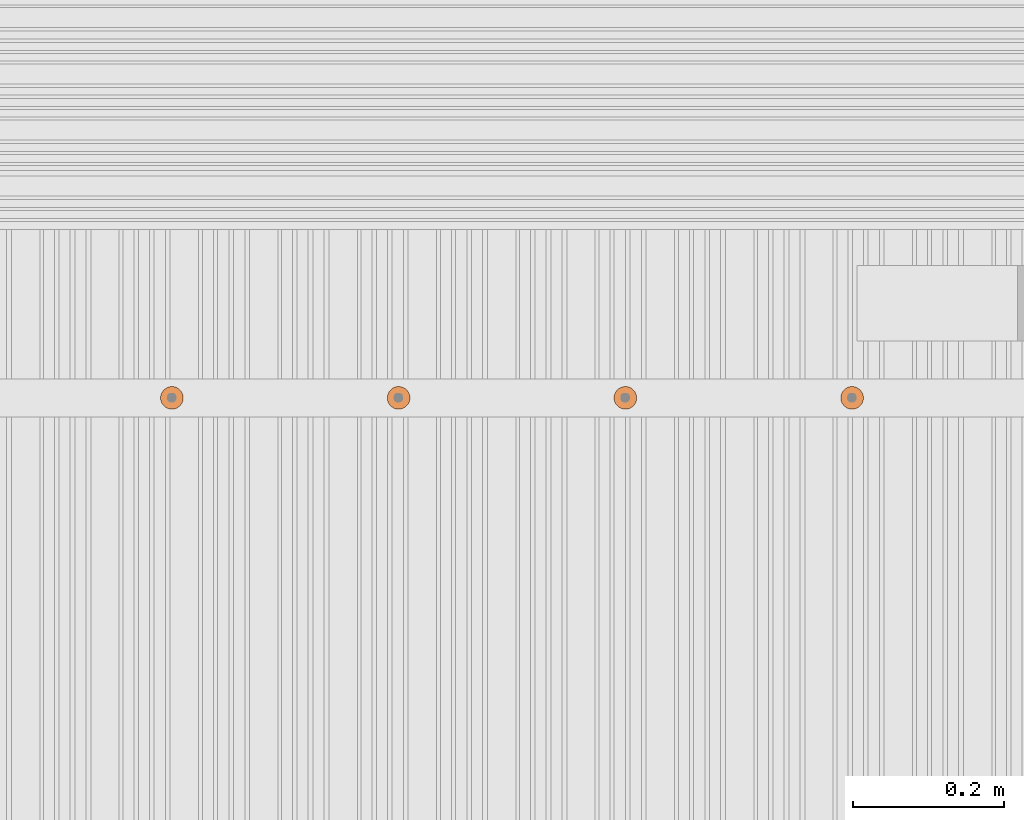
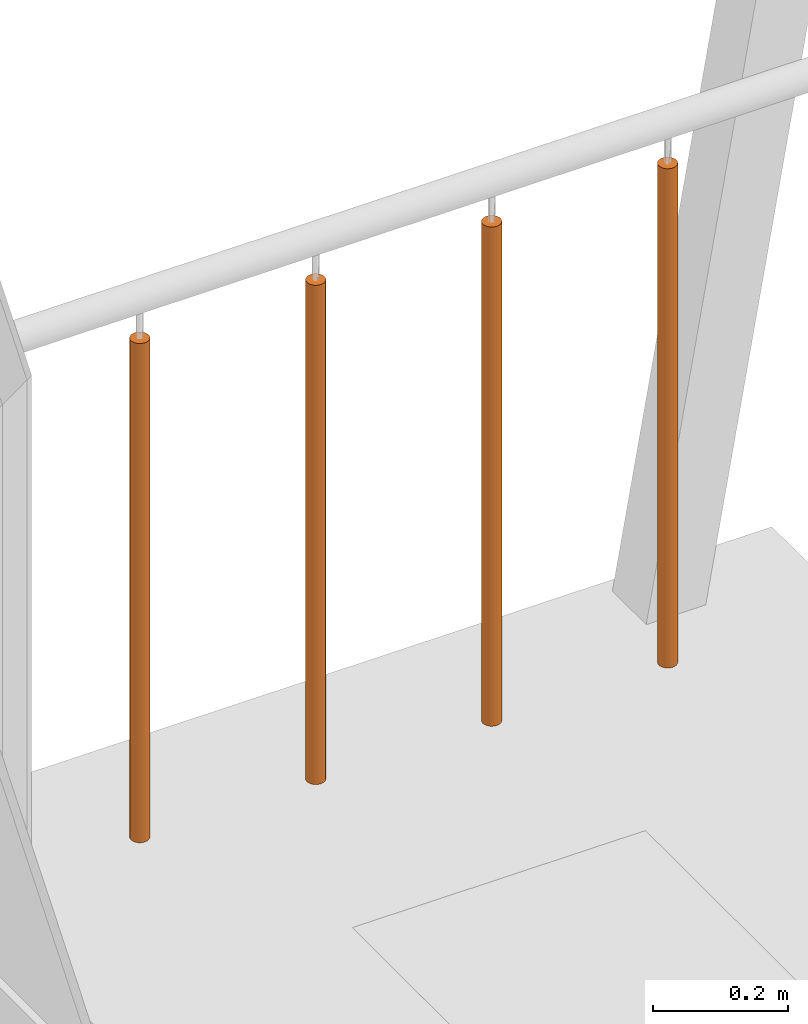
# One storey, part 365 of 418: 4 proxies, 1 element without a shape of its own.
"""IFC2X3 building model written with IfcOpenShell, lengths in millimetres."""

import ifcopenshell
import ifcopenshell.guid

model = None  # the IFC model being written
_history = None  # IfcOwnerHistory: only IFC2X3 demands one
_inside = {}  # id of a spatial element -> (the spatial element, [elements in it])
_under = {}  # id of a project, library or spatial element -> (it, [spatial elements below it])
_declared = {}  # id of a project -> (the project, [libraries it declares])
_typed = {}  # id of a type object -> (the type object, [elements of that type])
_made_of = {}  # id of a material, layer set ... -> (it, [elements and type objects made of it])


def new_model(schema):
    """Start an empty IFC model of exactly this schema.

    Asked for "IFC4X3", IfcOpenShell would pick the latest addendum, in which some entities
    have other attributes; the version numbers below select the first issue.
    IFC2X3 requires an IfcOwnerHistory on every rooted entity: one is made here for all.
    """
    global model, _history
    if schema == "IFC4X3":
        model = ifcopenshell.file(schema_version=(4, 3, 0, 0))
    else:
        model = ifcopenshell.file(schema=schema)
    _inside.clear()
    _under.clear()
    _declared.clear()
    _typed.clear()
    _made_of.clear()
    _history = None
    if model.schema == "IFC2X3":
        org = make("IfcOrganization", Name="unknown")
        user = make(
            "IfcPersonAndOrganization",
            ThePerson=make("IfcPerson", FamilyName="unknown"),
            TheOrganization=org,
        )
        app = make(
            "IfcApplication",
            ApplicationDeveloper=org,
            Version="unknown",
            ApplicationFullName="unknown",
            ApplicationIdentifier="unknown",
        )
        _history = make(
            "IfcOwnerHistory",
            OwningUser=user,
            OwningApplication=app,
            ChangeAction="ADDED",
            CreationDate=0,
        )
    return model


def make(cls, **values):
    """One entity of the class cls with the attributes given. An attribute that is None is left unset."""
    return model.create_entity(
        cls, **{name: value for name, value in values.items() if value is not None}
    )


def entity(cls, *values):
    """Any entity or typed value of the class cls, its attributes in the order of the schema. None: left unset."""
    e = model.create_entity(cls)
    for i, value in enumerate(values):
        if value is not None:
            e[i] = value
    return e


def rooted(cls, **values):
    """An entity with a GlobalId (a new one), such as an element, a storey or a relation."""
    return make(cls, GlobalId=ifcopenshell.guid.new(), OwnerHistory=_history, **values)


def si_unit(unit_type, name, prefix=None):
    """IfcSIUnit, for example si_unit("LENGTHUNIT", "METRE", prefix="MILLI")."""
    return make("IfcSIUnit", UnitType=unit_type, Prefix=prefix, Name=name)


def converted_unit(unit_type, name, factor, base, dimensions=None, offset=None):
    """IfcConversionBasedUnit, such as the inch: factor (a typed value) times the base unit."""
    return make(
        "IfcConversionBasedUnit"
        if offset is None
        else "IfcConversionBasedUnitWithOffset",
        ConversionOffset=offset,
        Dimensions=None
        if dimensions is None
        else entity("IfcDimensionalExponents", *dimensions),
        UnitType=unit_type,
        Name=name,
        ConversionFactor=make(
            "IfcMeasureWithUnit", ValueComponent=factor, UnitComponent=base
        ),
    )


def derived_unit(unit_type, elements):
    """IfcDerivedUnit: a product of units, each with its exponent."""
    return make(
        "IfcDerivedUnit",
        Elements=[
            make("IfcDerivedUnitElement", Unit=unit, Exponent=power)
            for unit, power in elements
        ],
        UnitType=unit_type,
    )


def money_unit(currency):
    """IfcMonetaryUnit."""
    return make("IfcMonetaryUnit", Currency=currency)


def assignment(units):
    """IfcUnitAssignment: the units of a project."""
    return None if units is None else make("IfcUnitAssignment", Units=units)


def point(xyz):
    """IfcCartesianPoint."""
    return None if xyz is None else make("IfcCartesianPoint", Coordinates=xyz)


def direction(xyz):
    """IfcDirection."""
    return None if xyz is None else make("IfcDirection", DirectionRatios=xyz)


def frame(location, z_axis=None, x_axis=None):
    """IfcAxis2Placement3D, a coordinate frame: its origin and axes. An axis left out is left unset."""
    return make(
        "IfcAxis2Placement3D",
        Location=point(location),
        Axis=direction(z_axis),
        RefDirection=direction(x_axis),
    )


def origin_with_axes():
    """The frame at (0, 0, 0) with the z axis (0, 0, 1) and the x axis (1, 0, 0) written out."""
    return frame((0.0, 0.0, 0.0), z_axis=(0.0, 0.0, 1.0), x_axis=(1.0, 0.0, 0.0))


def place(relative_to, where):
    """IfcLocalPlacement: puts the frame where relative to a parent placement (None: the world)."""
    return make(
        "IfcLocalPlacement", PlacementRelTo=relative_to, RelativePlacement=where
    )


def context(
    kind, dimensions, precision=None, world=None, true_north=None, identifier=None
):
    """IfcGeometricRepresentationContext, for example the 3D "Model" context."""
    return make(
        "IfcGeometricRepresentationContext",
        ContextIdentifier=identifier,
        ContextType=kind,
        CoordinateSpaceDimension=dimensions,
        Precision=precision,
        WorldCoordinateSystem=world,
        TrueNorth=true_north,
    )


def subcontext(parent, identifier, kind, view, scale=None):
    """IfcGeometricRepresentationSubContext, for example "Body" below "Model"."""
    return make(
        "IfcGeometricRepresentationSubContext",
        ContextIdentifier=identifier,
        ContextType=kind,
        ParentContext=parent,
        TargetScale=scale,
        TargetView=view,
    )


def project(units=None, contexts=None):
    """IfcProject with its units and contexts."""
    return rooted(
        "IfcProject",
        Name="project",
        RepresentationContexts=contexts,
        UnitsInContext=assignment(units),
    )


def spatial(cls, under=None, at=None, **own):
    """A site, building, storey or space (cls), placed at a placement, below another one or the project."""
    s = rooted(cls, ObjectPlacement=at, **own)
    if under is not None:
        _under.setdefault(under.id(), (under, []))[1].append(s)
    return s


def faces_of(points, faces, orient=None, outer=None):
    """IfcFace entities. A face is a list of loops; a loop is a list of indices into points, from 0.

    orient and outer hold one flag for each loop. By default every Orientation is true, the
    first loop of a face is its IfcFaceOuterBound and the others are IfcFaceBound.
    """
    made = []
    for i, loops in enumerate(faces):
        bounds = []
        for j, loop in enumerate(loops):
            is_outer = j == 0 if outer is None else outer[i][j]
            bounds.append(
                make(
                    "IfcFaceOuterBound" if is_outer else "IfcFaceBound",
                    Bound=make("IfcPolyLoop", Polygon=[points[k] for k in loop]),
                    Orientation=True if orient is None else orient[i][j],
                )
            )
        made.append(make("IfcFace", Bounds=bounds))
    return made


def faceted_brep(points, faces, orient=None, outer=None, voids=None):
    """IfcFacetedBrep: a solid bounded by flat faces; with voids (closed shells), ...WithVoids."""
    shared = [point(p) for p in points]
    hull = make("IfcClosedShell", CfsFaces=faces_of(shared, faces, orient, outer))
    if voids is None:
        return make("IfcFacetedBrep", Outer=hull)
    return make(
        "IfcFacetedBrepWithVoids",
        Outer=hull,
        Voids=[
            make(cls, CfsFaces=faces_of(shared, fs, o, b)) for cls, fs, o, b in voids
        ],
    )


def shape(context_of_items, identifier, shape_type, items):
    """IfcShapeRepresentation: the items that make up one representation, for example the "Body"."""
    return make(
        "IfcShapeRepresentation",
        ContextOfItems=context_of_items,
        RepresentationIdentifier=identifier,
        RepresentationType=shape_type,
        Items=items,
    )


def source(mapping_origin, context_of_items, identifier, shape_type, items):
    """IfcRepresentationMap: a shape defined once, which mapped items show again and again."""
    return make(
        "IfcRepresentationMap",
        MappingOrigin=mapping_origin,
        MappedRepresentation=shape(context_of_items, identifier, shape_type, items),
    )


def transform(
    local_origin,
    x_axis=None,
    y_axis=None,
    z_axis=None,
    scale=None,
    scale2=None,
    scale3=None,
    uniform=True,
):
    """IfcCartesianTransformationOperator3D, or its non-uniform kind. x_axis, y_axis, z_axis: its Axis1, 2, 3."""
    if uniform:
        return make(
            "IfcCartesianTransformationOperator3D",
            Axis1=direction(x_axis),
            Axis2=direction(y_axis),
            LocalOrigin=point(local_origin),
            Scale=scale,
            Axis3=direction(z_axis),
        )
    return make(
        "IfcCartesianTransformationOperator3DnonUniform",
        Axis1=direction(x_axis),
        Axis2=direction(y_axis),
        LocalOrigin=point(local_origin),
        Scale=scale,
        Axis3=direction(z_axis),
        Scale2=scale2,
        Scale3=scale3,
    )


def mapped(mapping_source, mapping_target):
    """IfcMappedItem: shows the shape of a source again, moved by a transform."""
    return make(
        "IfcMappedItem", MappingSource=mapping_source, MappingTarget=mapping_target
    )


def material(Name=None, Category=None):
    """IfcMaterial."""
    return make("IfcMaterial", Name=Name, Category=Category)


def made_of(thing, what):
    """Note that an element or type object is made of a material, layer set ...; save() writes the relation."""
    if what is not None:
        _made_of.setdefault(what.id(), (what, []))[1].append(thing)
    return thing


def type_object(cls, material=None, **own):
    """A type object (cls), such as IfcWallType, which elements share."""
    return made_of(rooted(cls, **own), material)


def element(
    cls,
    number,
    at=None,
    inside=None,
    cuts=None,
    type_object=None,
    material=None,
    context=None,
    identifier="Body",
    shape_type=None,
    held_by="IfcProductDefinitionShape",
    body=None,
    shapes=None,
    **own,
):
    """One element of the class cls, such as IfcWall. Its Tag is "e" and its number.

    at: its placement. inside: the storey or other place that contains it. cuts: it is an
    opening in that element (IfcRelVoidsElement). A single representation is given by context,
    identifier, shape_type and body (its items); several are given by shapes. held_by: the class
    of the entity that holds the representations. save() writes the other relations.
    """
    e = rooted(cls, Tag="e%d" % number, ObjectPlacement=at, **own)
    if body is not None:
        shapes = [shape(context, identifier, shape_type, body)]
    if shapes is not None:
        e.Representation = make(held_by, Representations=shapes)
    if inside is not None:
        _inside.setdefault(inside.id(), (inside, []))[1].append(e)
    if cuts is not None:
        rooted(
            "IfcRelVoidsElement", RelatingBuildingElement=cuts, RelatedOpeningElement=e
        )
    if type_object is not None:
        _typed.setdefault(type_object.id(), (type_object, []))[1].append(e)
    return made_of(e, material)


def aggregate(whole, parts):
    """IfcRelAggregates: a whole, such as a stair, and the parts it consists of."""
    return rooted("IfcRelAggregates", RelatingObject=whole, RelatedObjects=parts)


def save(model, path):
    """Write the relations noted so far, then the file.

    IfcRelAggregates (storeys below a building ...), IfcRelContainedInSpatialStructure (elements
    in a storey), IfcRelDefinesByType, IfcRelAssociatesMaterial and IfcRelDeclares: one each for
    every whole, place, type object, material and project.
    """
    for whole, parts in _under.values():
        aggregate(whole, parts)
    for where, things in _inside.values():
        rooted(
            "IfcRelContainedInSpatialStructure",
            RelatedElements=things,
            RelatingStructure=where,
        )
    for kind, things in _typed.values():
        rooted("IfcRelDefinesByType", RelatedObjects=things, RelatingType=kind)
    for what, things in _made_of.values():
        rooted("IfcRelAssociatesMaterial", RelatedObjects=things, RelatingMaterial=what)
    for by, libraries in _declared.values():
        rooted("IfcRelDeclares", RelatingContext=by, RelatedDefinitions=libraries)
    model.write(path)


model = new_model("IFC2X3")

# Units and contexts
model_context = context("Model", 3, precision=0.01, world=origin_with_axes(), true_north=direction((0.0, 1.0)))
body_context = subcontext(model_context, "Body", "Model", "MODEL_VIEW")
ifc_project = project(units=[si_unit("LENGTHUNIT", "METRE", prefix="MILLI"), si_unit("AREAUNIT", "SQUARE_METRE"), si_unit("VOLUMEUNIT", "CUBIC_METRE"), converted_unit("PLANEANGLEUNIT", "DEGREE", entity("IfcPlaneAngleMeasure", 0.0174532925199), si_unit("PLANEANGLEUNIT", "RADIAN"), dimensions=[0, 0, 0, 0, 0, 0, 0]), si_unit("SOLIDANGLEUNIT", "STERADIAN"), money_unit("EUR"), converted_unit("TIMEUNIT", "Year", entity("IfcTimeMeasure", 31556926.0), si_unit("TIMEUNIT", "SECOND"), dimensions=[0, 0, 1, 0, 0, 0, 0]), si_unit("MASSUNIT", "GRAM", prefix="KILO"), si_unit("THERMODYNAMICTEMPERATUREUNIT", "DEGREE_CELSIUS"), si_unit("LUMINOUSINTENSITYUNIT", "LUMEN"), si_unit("ENERGYUNIT", "JOULE", prefix="MEGA"), derived_unit("THERMALCONDUCTANCEUNIT", [(si_unit("POWERUNIT", "WATT"), 1), (si_unit("LENGTHUNIT", "METRE"), -1), (si_unit("THERMODYNAMICTEMPERATUREUNIT", "KELVIN"), -1)]), derived_unit("SPECIFICHEATCAPACITYUNIT", [(si_unit("ENERGYUNIT", "JOULE"), 1), (si_unit("MASSUNIT", "GRAM", prefix="KILO"), -1), (si_unit("THERMODYNAMICTEMPERATUREUNIT", "KELVIN"), -1)]), derived_unit("MASSDENSITYUNIT", [(si_unit("MASSUNIT", "GRAM", prefix="KILO"), 1), (si_unit("VOLUMEUNIT", "CUBIC_METRE"), -1)])], contexts=[model_context])

# Site, building, storey
site_placement = place(None, origin_with_axes())
site = spatial("IfcSite", under=ifc_project, at=site_placement, Name="Paldiski mnt 245/1, Tallinn, Harjumaa", CompositionType="COMPLEX")
building_placement = place(site_placement, origin_with_axes())
building = spatial("IfcBuilding", under=site, at=building_placement, Name="RKAS Hoone üldnimetus (kasutust iseloomustav) -> IFC Project Manager -> SOLIBRI", CompositionType="ELEMENT")
storey_placement = place(building_placement, origin_with_axes())
storey = spatial("IfcBuildingStorey", under=building, at=storey_placement, Name="Esimene korrus", CompositionType="ELEMENT", Elevation=0.0)

# Proxies
building_element_proxy_type_1 = type_object("IfcBuildingElementProxyType", Name="Railing Type", PredefinedType="NOTDEFINED")
proxy_1_placement = place(storey_placement, frame((-46765.0, 8168.75490532, -321.218687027), z_axis=(0.0, 0.0, 1.0), x_axis=(1.0, 0.0, 0.0)))
proxy_1 = element("IfcBuildingElementProxy", 1, at=proxy_1_placement, inside=storey, type_object=building_element_proxy_type_1, Name="Trepipiire")
ifc_material = material(Name="RAL7016")
building_element_proxy_type_2 = type_object("IfcBuildingElementProxyType", Name="IfcBuildingElementProxy", PredefinedType="NOTDEFINED")
shared_shape_1 = source(origin_with_axes(), body_context, "Body", "Brep", [
    faceted_brep([(0.0, -15.0, 0.0), (2.604722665, -14.7721162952, 0.0), (2.604722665, -14.7721162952, 900.0), (0.0, -15.0, 900.0), (-2.604722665, -14.7721162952, 0.0), (-5.13030214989, -14.0953893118, 0.0), (-7.5, -12.9903810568, 0.0), (-9.6418141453, -11.4906666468, 0.0), (-11.4906666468, -9.6418141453, 0.0), (-12.9903810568, -7.5, 0.0), (-14.0953893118, -5.13030214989, 0.0), (-14.7721162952, -2.604722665, 0.0), (-15.0, 0.0, 0.0), (-14.7721162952, 2.604722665, 0.0), (-14.0953893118, 5.13030214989, 0.0), (-12.9903810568, 7.5, 0.0), (-11.4906666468, 9.6418141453, 0.0), (-9.6418141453, 11.4906666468, 0.0), (-7.5, 12.9903810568, 0.0), (-5.13030214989, 14.0953893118, 0.0), (-2.604722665, 14.7721162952, 0.0), (0.0, 15.0, 0.0), (2.604722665, 14.7721162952, 0.0), (5.13030214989, 14.0953893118, 0.0), (7.5, 12.9903810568, 0.0), (9.6418141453, 11.4906666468, 0.0), (11.4906666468, 9.6418141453, 0.0), (12.9903810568, 7.5, 0.0), (14.0953893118, 5.13030214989, 0.0), (14.7721162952, 2.604722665, 0.0), (15.0, 0.0, 0.0), (14.7721162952, -2.604722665, 0.0), (14.0953893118, -5.13030214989, 0.0), (12.9903810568, -7.5, 0.0), (11.4906666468, -9.6418141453, 0.0), (9.6418141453, -11.4906666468, 0.0), (7.5, -12.9903810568, 0.0), (5.13030214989, -14.0953893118, 0.0), (5.13030214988, -14.0953893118, 900.0), (7.49999999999, -12.9903810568, 900.0), (9.64181414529, -11.4906666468, 900.0), (11.4906666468, -9.6418141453, 900.0), (12.9903810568, -7.5, 900.0), (14.0953893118, -5.13030214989, 900.0), (14.7721162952, -2.60472266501, 900.0), (15.0, 0.0, 900.0), (14.7721162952, 2.604722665, 900.0), (14.0953893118, 5.13030214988, 900.0), (12.9903810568, 7.5, 900.0), (11.4906666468, 9.64181414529, 900.0), (9.64181414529, 11.4906666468, 900.0), (7.49999999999, 12.9903810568, 900.0), (5.13030214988, 14.0953893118, 900.0), (2.604722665, 14.7721162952, 900.0), (0.0, 15.0, 900.0), (-2.60472266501, 14.7721162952, 900.0), (-5.13030214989, 14.0953893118, 900.0), (-7.50000000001, 12.9903810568, 900.0), (-9.64181414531, 11.4906666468, 900.0), (-11.4906666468, 9.64181414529, 900.0), (-12.9903810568, 7.5, 900.0), (-14.0953893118, 5.13030214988, 900.0), (-14.7721162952, 2.604722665, 900.0), (-15.0, 0.0, 900.0), (-14.7721162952, -2.60472266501, 900.0), (-14.0953893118, -5.13030214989, 900.0), (-12.9903810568, -7.5, 900.0), (-11.4906666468, -9.6418141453, 900.0), (-9.64181414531, -11.4906666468, 900.0), (-7.50000000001, -12.9903810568, 900.0), (-5.13030214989, -14.0953893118, 900.0), (-2.60472266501, -14.7721162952, 900.0)], [[[0, 1, 2, 3]], [[0, 4, 5, 6, 7, 8, 9, 10, 11, 12, 13, 14, 15, 16, 17, 18, 19, 20, 21, 22, 23, 24, 25, 26, 27, 28, 29, 30, 31, 32, 33, 34, 35, 36, 37, 1]], [[1, 37, 38, 2]], [[3, 2, 38, 39, 40, 41, 42, 43, 44, 45, 46, 47, 48, 49, 50, 51, 52, 53, 54, 55, 56, 57, 58, 59, 60, 61, 62, 63, 64, 65, 66, 67, 68, 69, 70, 71]], [[4, 0, 3, 71]], [[5, 4, 71, 70]], [[6, 5, 70, 69]], [[7, 6, 69, 68]], [[8, 7, 68, 67]], [[9, 8, 67, 66]], [[10, 9, 66, 65]], [[11, 10, 65, 64]], [[12, 11, 64, 63]], [[13, 12, 63, 62]], [[14, 13, 62, 61]], [[15, 14, 61, 60]], [[16, 15, 60, 59]], [[17, 16, 59, 58]], [[18, 17, 58, 57]], [[19, 18, 57, 56]], [[20, 19, 56, 55]], [[21, 20, 55, 54]], [[22, 21, 54, 53]], [[23, 22, 53, 52]], [[24, 23, 52, 51]], [[25, 24, 51, 50]], [[26, 25, 50, 49]], [[27, 26, 49, 48]], [[28, 27, 48, 47]], [[29, 28, 47, 46]], [[30, 29, 46, 45]], [[31, 30, 45, 44]], [[32, 31, 44, 43]], [[33, 32, 43, 42]], [[34, 33, 42, 41]], [[35, 34, 41, 40]], [[36, 35, 40, 39]], [[37, 36, 39, 38]]]),
])
proxy_2_placement = place(proxy_1_placement, frame((300.0, 0.0, 301.218687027), z_axis=(0.0, 0.0, 1.0), x_axis=(1.0, 0.0, 0.0)))
proxy_2 = element("IfcBuildingElementProxy", 2, at=proxy_2_placement, type_object=building_element_proxy_type_2, material=ifc_material, Name="SISEPOST - 001", context=body_context, shape_type="MappedRepresentation", body=[
    mapped(shared_shape_1, transform((0.0, 0.0, 0.0), x_axis=(0.0, -1.0, 0.0), y_axis=(1.0, 0.0, 0.0), z_axis=(0.0, 0.0, 1.0))),
])
shared_shape_2 = source(origin_with_axes(), body_context, "Body", "Brep", [
    faceted_brep([(0.0, -15.0, 0.0), (2.604722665, -14.7721162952, 0.0), (2.604722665, -14.7721162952, 900.0), (0.0, -15.0, 900.0), (-2.604722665, -14.7721162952, 0.0), (-5.13030214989, -14.0953893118, 0.0), (-7.5, -12.9903810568, 0.0), (-9.6418141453, -11.4906666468, 0.0), (-11.4906666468, -9.6418141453, 0.0), (-12.9903810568, -7.5, 0.0), (-14.0953893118, -5.13030214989, 0.0), (-14.7721162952, -2.604722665, 0.0), (-15.0, 0.0, 0.0), (-14.7721162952, 2.604722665, 0.0), (-14.0953893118, 5.13030214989, 0.0), (-12.9903810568, 7.5, 0.0), (-11.4906666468, 9.6418141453, 0.0), (-9.6418141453, 11.4906666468, 0.0), (-7.5, 12.9903810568, 0.0), (-5.13030214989, 14.0953893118, 0.0), (-2.604722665, 14.7721162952, 0.0), (0.0, 15.0, 0.0), (2.604722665, 14.7721162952, 0.0), (5.13030214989, 14.0953893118, 0.0), (7.5, 12.9903810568, 0.0), (9.6418141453, 11.4906666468, 0.0), (11.4906666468, 9.6418141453, 0.0), (12.9903810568, 7.5, 0.0), (14.0953893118, 5.13030214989, 0.0), (14.7721162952, 2.604722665, 0.0), (15.0, 0.0, 0.0), (14.7721162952, -2.604722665, 0.0), (14.0953893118, -5.13030214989, 0.0), (12.9903810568, -7.5, 0.0), (11.4906666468, -9.6418141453, 0.0), (9.6418141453, -11.4906666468, 0.0), (7.5, -12.9903810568, 0.0), (5.13030214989, -14.0953893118, 0.0), (5.13030214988, -14.0953893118, 900.0), (7.49999999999, -12.9903810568, 900.0), (9.64181414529, -11.4906666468, 900.0), (11.4906666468, -9.6418141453, 900.0), (12.9903810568, -7.5, 900.0), (14.0953893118, -5.13030214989, 900.0), (14.7721162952, -2.60472266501, 900.0), (15.0, 0.0, 900.0), (14.7721162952, 2.604722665, 900.0), (14.0953893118, 5.13030214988, 900.0), (12.9903810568, 7.5, 900.0), (11.4906666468, 9.64181414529, 900.0), (9.64181414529, 11.4906666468, 900.0), (7.49999999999, 12.9903810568, 900.0), (5.13030214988, 14.0953893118, 900.0), (2.604722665, 14.7721162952, 900.0), (0.0, 15.0, 900.0), (-2.60472266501, 14.7721162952, 900.0), (-5.13030214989, 14.0953893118, 900.0), (-7.50000000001, 12.9903810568, 900.0), (-9.64181414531, 11.4906666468, 900.0), (-11.4906666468, 9.64181414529, 900.0), (-12.9903810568, 7.5, 900.0), (-14.0953893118, 5.13030214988, 900.0), (-14.7721162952, 2.604722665, 900.0), (-15.0, 0.0, 900.0), (-14.7721162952, -2.60472266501, 900.0), (-14.0953893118, -5.13030214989, 900.0), (-12.9903810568, -7.5, 900.0), (-11.4906666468, -9.6418141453, 900.0), (-9.64181414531, -11.4906666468, 900.0), (-7.50000000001, -12.9903810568, 900.0), (-5.13030214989, -14.0953893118, 900.0), (-2.60472266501, -14.7721162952, 900.0)], [[[0, 1, 2, 3]], [[0, 4, 5, 6, 7, 8, 9, 10, 11, 12, 13, 14, 15, 16, 17, 18, 19, 20, 21, 22, 23, 24, 25, 26, 27, 28, 29, 30, 31, 32, 33, 34, 35, 36, 37, 1]], [[1, 37, 38, 2]], [[3, 2, 38, 39, 40, 41, 42, 43, 44, 45, 46, 47, 48, 49, 50, 51, 52, 53, 54, 55, 56, 57, 58, 59, 60, 61, 62, 63, 64, 65, 66, 67, 68, 69, 70, 71]], [[4, 0, 3, 71]], [[5, 4, 71, 70]], [[6, 5, 70, 69]], [[7, 6, 69, 68]], [[8, 7, 68, 67]], [[9, 8, 67, 66]], [[10, 9, 66, 65]], [[11, 10, 65, 64]], [[12, 11, 64, 63]], [[13, 12, 63, 62]], [[14, 13, 62, 61]], [[15, 14, 61, 60]], [[16, 15, 60, 59]], [[17, 16, 59, 58]], [[18, 17, 58, 57]], [[19, 18, 57, 56]], [[20, 19, 56, 55]], [[21, 20, 55, 54]], [[22, 21, 54, 53]], [[23, 22, 53, 52]], [[24, 23, 52, 51]], [[25, 24, 51, 50]], [[26, 25, 50, 49]], [[27, 26, 49, 48]], [[28, 27, 48, 47]], [[29, 28, 47, 46]], [[30, 29, 46, 45]], [[31, 30, 45, 44]], [[32, 31, 44, 43]], [[33, 32, 43, 42]], [[34, 33, 42, 41]], [[35, 34, 41, 40]], [[36, 35, 40, 39]], [[37, 36, 39, 38]]]),
])
proxy_3_placement = place(proxy_1_placement, frame((600.0, 0.0, 301.218687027), z_axis=(0.0, 0.0, 1.0), x_axis=(1.0, 0.0, 0.0)))
proxy_3 = element("IfcBuildingElementProxy", 3, at=proxy_3_placement, type_object=building_element_proxy_type_2, material=ifc_material, Name="SISEPOST - 001", context=body_context, shape_type="MappedRepresentation", body=[
    mapped(shared_shape_2, transform((0.0, 0.0, 0.0), x_axis=(0.0, -1.0, 0.0), y_axis=(1.0, 0.0, 0.0), z_axis=(0.0, 0.0, 1.0))),
])
proxy_4_placement = place(proxy_1_placement, frame((900.0, 0.0, 301.218687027), z_axis=(0.0, 0.0, 1.0), x_axis=(1.0, 0.0, 0.0)))
proxy_4 = element("IfcBuildingElementProxy", 4, at=proxy_4_placement, type_object=building_element_proxy_type_2, material=ifc_material, Name="SISEPOST - 001", context=body_context, shape_type="MappedRepresentation", body=[
    mapped(shared_shape_2, transform((0.0, 0.0, 0.0), x_axis=(0.0, -1.0, 0.0), y_axis=(1.0, 0.0, 0.0), z_axis=(0.0, 0.0, 1.0))),
])
proxy_5_placement = place(proxy_1_placement, frame((1200.0, 0.0, 301.218687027), z_axis=(0.0, 0.0, 1.0), x_axis=(1.0, 0.0, 0.0)))
proxy_5 = element("IfcBuildingElementProxy", 5, at=proxy_5_placement, type_object=building_element_proxy_type_2, material=ifc_material, Name="SISEPOST - 001", context=body_context, shape_type="MappedRepresentation", body=[
    mapped(shared_shape_2, transform((0.0, 0.0, 0.0), x_axis=(0.0, -1.0, 0.0), y_axis=(1.0, 0.0, 0.0), z_axis=(0.0, 0.0, 1.0))),
])
aggregate(proxy_1, [proxy_2, proxy_3, proxy_4, proxy_5])

save(model, "model.ifc")
